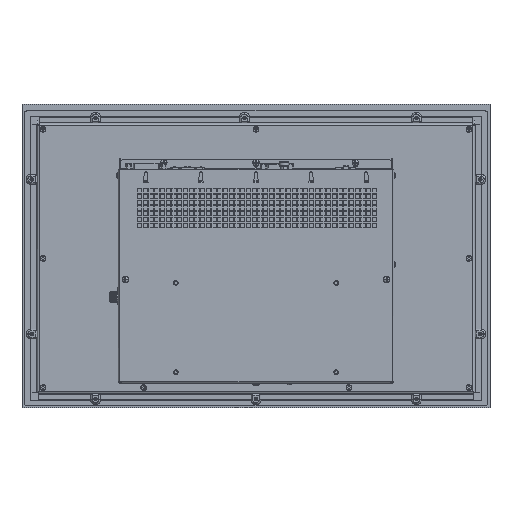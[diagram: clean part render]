
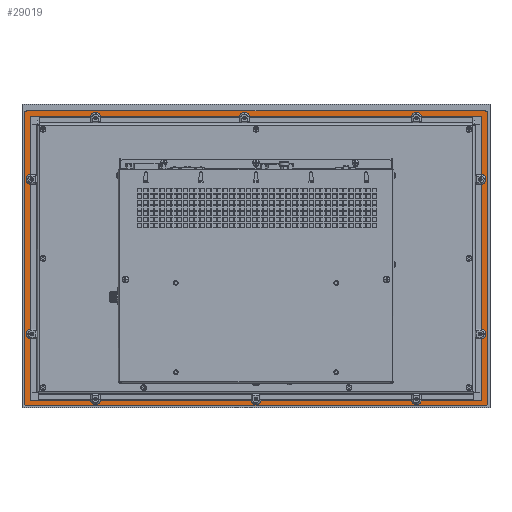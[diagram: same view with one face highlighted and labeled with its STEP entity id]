
A CAD part, front view. The second image highlights one B-rep face of the part: STEP entity #29019.
In plain terms, the highlighted planar face has unit normal (0, -1, 0).
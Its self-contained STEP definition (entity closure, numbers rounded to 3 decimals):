
#28060=CARTESIAN_POINT('',(212.,0.5,-131.));
#28061=DIRECTION('',(0.,1.,0.));
#28062=DIRECTION('',(1.,0.,0.));
#28063=AXIS2_PLACEMENT_3D('',#28060,#28061,#28062);
#28065=DIRECTION('',(-1.,0.,0.));
#28066=VECTOR('',#28065,424.);
#28067=CARTESIAN_POINT('',(212.,0.5,-133.));
#28068=LINE('',#28067,#28066);
#28069=CARTESIAN_POINT('',(-212.,0.5,-131.));
#28070=DIRECTION('',(0.,1.,0.));
#28071=DIRECTION('',(0.,0.,-1.));
#28072=AXIS2_PLACEMENT_3D('',#28069,#28070,#28071);
#28074=DIRECTION('',(0.,0.,1.));
#28075=VECTOR('',#28074,269.);
#28076=CARTESIAN_POINT('',(-214.,0.5,-131.));
#28077=LINE('',#28076,#28075);
#28078=CARTESIAN_POINT('',(-212.,0.5,138.));
#28079=DIRECTION('',(0.,1.,0.));
#28080=DIRECTION('',(-1.,0.,0.));
#28081=AXIS2_PLACEMENT_3D('',#28078,#28079,#28080);
#28083=DIRECTION('',(1.,0.,0.));
#28084=VECTOR('',#28083,424.);
#28085=CARTESIAN_POINT('',(-212.,0.5,140.));
#28086=LINE('',#28085,#28084);
#28087=CARTESIAN_POINT('',(212.,0.5,138.));
#28088=DIRECTION('',(0.,1.,0.));
#28089=DIRECTION('',(0.,0.,1.));
#28090=AXIS2_PLACEMENT_3D('',#28087,#28088,#28089);
#28092=DIRECTION('',(0.,0.,-1.));
#28093=VECTOR('',#28092,269.);
#28094=CARTESIAN_POINT('',(214.,0.5,138.));
#28095=LINE('',#28094,#28093);
#28096=CARTESIAN_POINT('',(208.,0.5,-127.));
#28097=DIRECTION('',(0.,-1.,0.));
#28098=DIRECTION('',(0.,0.,-1.));
#28099=AXIS2_PLACEMENT_3D('',#28096,#28097,#28098);
#28101=DIRECTION('',(0.,0.,1.));
#28102=VECTOR('',#28101,261.);
#28103=CARTESIAN_POINT('',(209.,0.5,-127.));
#28104=LINE('',#28103,#28102);
#28105=CARTESIAN_POINT('',(208.,0.5,134.));
#28106=DIRECTION('',(0.,-1.,0.));
#28107=DIRECTION('',(1.,0.,0.));
#28108=AXIS2_PLACEMENT_3D('',#28105,#28106,#28107);
#28110=DIRECTION('',(-1.,0.,0.));
#28111=VECTOR('',#28110,416.);
#28112=CARTESIAN_POINT('',(208.,0.5,135.));
#28113=LINE('',#28112,#28111);
#28114=CARTESIAN_POINT('',(-208.,0.5,134.));
#28115=DIRECTION('',(0.,-1.,0.));
#28116=DIRECTION('',(0.,0.,1.));
#28117=AXIS2_PLACEMENT_3D('',#28114,#28115,#28116);
#28119=DIRECTION('',(0.,0.,-1.));
#28120=VECTOR('',#28119,261.);
#28121=CARTESIAN_POINT('',(-209.,0.5,134.));
#28122=LINE('',#28121,#28120);
#28123=CARTESIAN_POINT('',(-208.,0.5,-127.));
#28124=DIRECTION('',(0.,-1.,0.));
#28125=DIRECTION('',(-1.,0.,0.));
#28126=AXIS2_PLACEMENT_3D('',#28123,#28124,#28125);
#28128=DIRECTION('',(1.,0.,0.));
#28129=VECTOR('',#28128,416.);
#28130=CARTESIAN_POINT('',(-208.,0.5,-128.));
#28131=LINE('',#28130,#28129);
#28946=CARTESIAN_POINT('',(212.,0.5,-133.));
#28947=CARTESIAN_POINT('',(214.,0.5,-131.));
#28948=VERTEX_POINT('',#28946);
#28949=VERTEX_POINT('',#28947);
#28950=CARTESIAN_POINT('',(214.,0.5,138.));
#28951=VERTEX_POINT('',#28950);
#28952=CARTESIAN_POINT('',(212.,0.5,140.));
#28953=VERTEX_POINT('',#28952);
#28954=CARTESIAN_POINT('',(-212.,0.5,140.));
#28955=VERTEX_POINT('',#28954);
#28956=CARTESIAN_POINT('',(-214.,0.5,138.));
#28957=VERTEX_POINT('',#28956);
#28958=CARTESIAN_POINT('',(-214.,0.5,-131.));
#28959=VERTEX_POINT('',#28958);
#28960=CARTESIAN_POINT('',(-212.,0.5,-133.));
#28961=VERTEX_POINT('',#28960);
#28962=CARTESIAN_POINT('',(208.,0.5,-128.));
#28963=CARTESIAN_POINT('',(209.,0.5,-127.));
#28964=VERTEX_POINT('',#28962);
#28965=VERTEX_POINT('',#28963);
#28966=CARTESIAN_POINT('',(209.,0.5,134.));
#28967=VERTEX_POINT('',#28966);
#28968=CARTESIAN_POINT('',(208.,0.5,135.));
#28969=VERTEX_POINT('',#28968);
#28970=CARTESIAN_POINT('',(-208.,0.5,135.));
#28971=VERTEX_POINT('',#28970);
#28972=CARTESIAN_POINT('',(-209.,0.5,134.));
#28973=VERTEX_POINT('',#28972);
#28974=CARTESIAN_POINT('',(-209.,0.5,-127.));
#28975=VERTEX_POINT('',#28974);
#28976=CARTESIAN_POINT('',(-208.,0.5,-128.));
#28977=VERTEX_POINT('',#28976);
#28978=CARTESIAN_POINT('',(0.,0.5,0.));
#28979=DIRECTION('',(0.,-1.,0.));
#28980=DIRECTION('',(-1.,0.,0.));
#28981=AXIS2_PLACEMENT_3D('',#28978,#28979,#28980);
#28982=PLANE('',#28981);
#28984=ORIENTED_EDGE('',*,*,#28983,.T.);
#28986=ORIENTED_EDGE('',*,*,#28985,.T.);
#28988=ORIENTED_EDGE('',*,*,#28987,.T.);
#28990=ORIENTED_EDGE('',*,*,#28989,.T.);
#28992=ORIENTED_EDGE('',*,*,#28991,.T.);
#28994=ORIENTED_EDGE('',*,*,#28993,.T.);
#28996=ORIENTED_EDGE('',*,*,#28995,.T.);
#28998=ORIENTED_EDGE('',*,*,#28997,.T.);
#28999=EDGE_LOOP('',(#28984,#28986,#28988,#28990,#28992,#28994,#28996,#28998));
#29000=FACE_OUTER_BOUND('',#28999,.F.);
#29002=ORIENTED_EDGE('',*,*,#29001,.T.);
#29004=ORIENTED_EDGE('',*,*,#29003,.T.);
#29006=ORIENTED_EDGE('',*,*,#29005,.T.);
#29008=ORIENTED_EDGE('',*,*,#29007,.T.);
#29010=ORIENTED_EDGE('',*,*,#29009,.T.);
#29012=ORIENTED_EDGE('',*,*,#29011,.T.);
#29014=ORIENTED_EDGE('',*,*,#29013,.T.);
#29016=ORIENTED_EDGE('',*,*,#29015,.T.);
#29017=EDGE_LOOP('',(#29002,#29004,#29006,#29008,#29010,#29012,#29014,#29016));
#29018=FACE_BOUND('',#29017,.F.);
#28064=CIRCLE('',#28063,2.);
#28073=CIRCLE('',#28072,2.);
#28082=CIRCLE('',#28081,2.);
#28091=CIRCLE('',#28090,2.);
#28100=CIRCLE('',#28099,1.);
#28109=CIRCLE('',#28108,1.);
#28118=CIRCLE('',#28117,1.);
#28127=CIRCLE('',#28126,1.);
#28983=EDGE_CURVE('',#28949,#28948,#28064,.T.);
#28985=EDGE_CURVE('',#28948,#28961,#28068,.T.);
#28987=EDGE_CURVE('',#28961,#28959,#28073,.T.);
#28989=EDGE_CURVE('',#28959,#28957,#28077,.T.);
#28991=EDGE_CURVE('',#28957,#28955,#28082,.T.);
#28993=EDGE_CURVE('',#28955,#28953,#28086,.T.);
#28995=EDGE_CURVE('',#28953,#28951,#28091,.T.);
#28997=EDGE_CURVE('',#28951,#28949,#28095,.T.);
#29001=EDGE_CURVE('',#28964,#28965,#28100,.T.);
#29003=EDGE_CURVE('',#28965,#28967,#28104,.T.);
#29005=EDGE_CURVE('',#28967,#28969,#28109,.T.);
#29007=EDGE_CURVE('',#28969,#28971,#28113,.T.);
#29009=EDGE_CURVE('',#28971,#28973,#28118,.T.);
#29011=EDGE_CURVE('',#28973,#28975,#28122,.T.);
#29013=EDGE_CURVE('',#28975,#28977,#28127,.T.);
#29015=EDGE_CURVE('',#28977,#28964,#28131,.T.);
#29019=ADVANCED_FACE('',(#29000,#29018),#28982,.T.);
